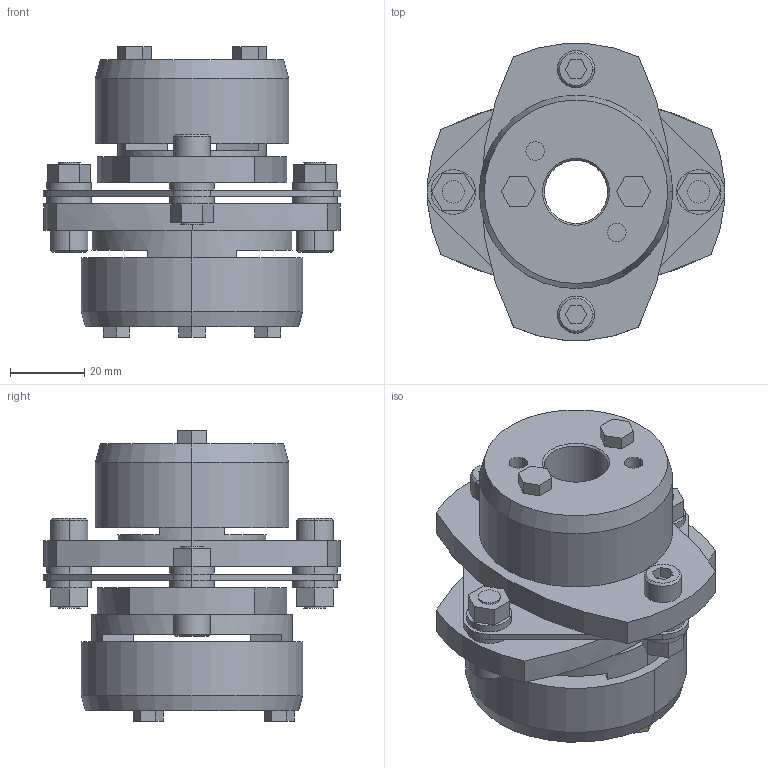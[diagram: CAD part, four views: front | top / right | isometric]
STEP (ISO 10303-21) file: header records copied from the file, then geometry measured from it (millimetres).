
FILE_DESCRIPTION((''),'2;1');
FILE_NAME('LCS-80T7-17×35.stp','2011-09-12T15:09:33',(''),(''),'AutoCAD STEP 2000i','AutoCAD 2000i',', , ');
FILE_SCHEMA(('CONFIG_CONTROL_DESIGN'));
Length unit declared in the file: millimetre
Products named in the file (12): LCS-80T7-17×35; 忣兜1; LC80T7-T035; LC80T7-T032; LC80T7-T030; LC80T7-T028; LC80T7-T024; LC80T7-T022; LC80T7-T019; LC80T7-T017-1; LC80T7-T017; LCS80-ITA
Assembly tree (11 placements, depth 2):
  LCS-80T7-17×35
    忣兜1
    LC80T7-T035
    LC80T7-T032
    LC80T7-T030
    LC80T7-T028
    LC80T7-T024
    LC80T7-T022
    LC80T7-T019
    LC80T7-T017-1
    LC80T7-T017
    LCS80-ITA
Bounding box: 80 x 79.95 x 78.05 mm (x, y, z)
Volume: 135947.9 mm3; surface area: 41753.8 mm2
Topology: 1 solids, 1 shells, 228 faces, 558 edges, 364 vertices
Faces by surface type: plane 128, cylinder 80, cone 20
Entity records: 7019 total; most frequent: DIRECTION 1242, CARTESIAN_POINT 1162, ORIENTED_EDGE 1116, EDGE_CURVE 558, AXIS2_PLACEMENT_3D 444, VERTEX_POINT 364, VECTOR 354, LINE 354
